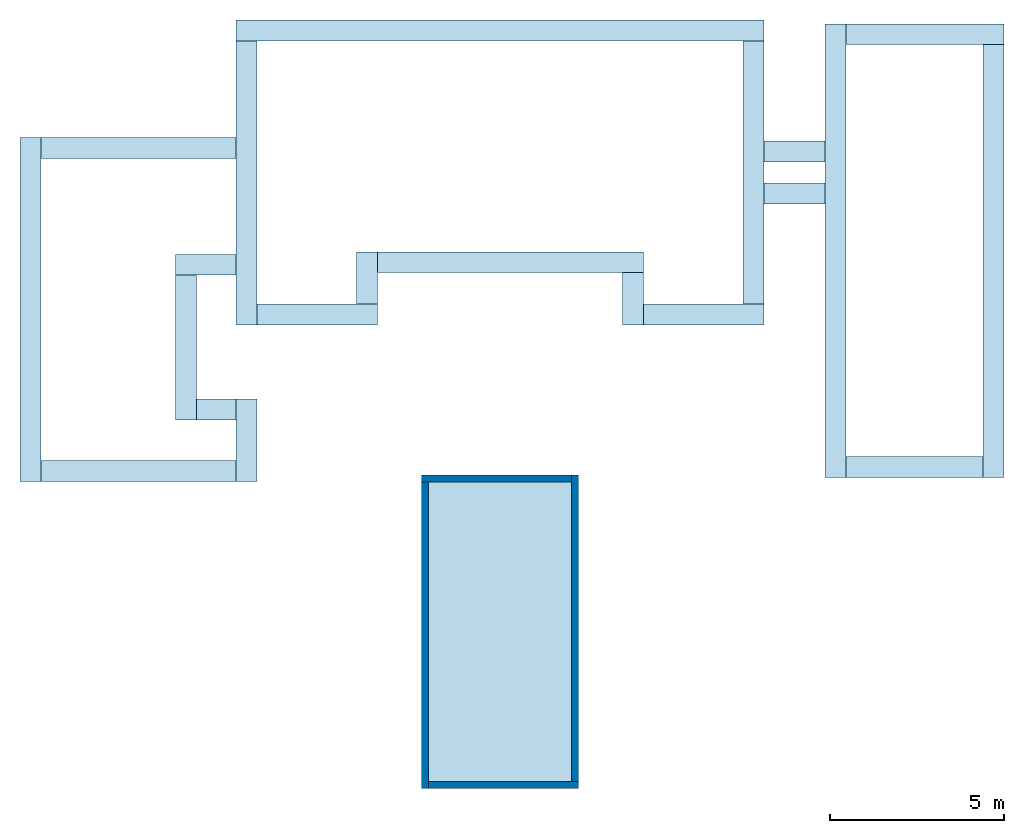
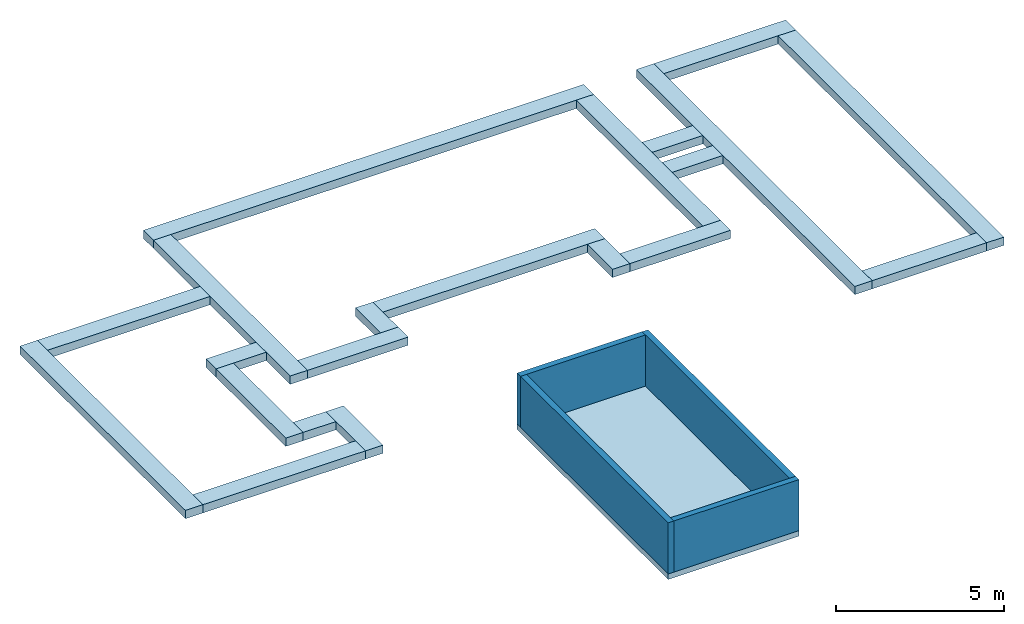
# One storey: 21 footings, 4 walls, 1 slab.
"""IFC2X3 building model written with IfcOpenShell, lengths in metres."""

import ifcopenshell
import ifcopenshell.guid

model = None  # the IFC model being written
_history = None  # IfcOwnerHistory: only IFC2X3 demands one
_inside = {}  # id of a spatial element -> (the spatial element, [elements in it])
_under = {}  # id of a project, library or spatial element -> (it, [spatial elements below it])
_declared = {}  # id of a project -> (the project, [libraries it declares])
_typed = {}  # id of a type object -> (the type object, [elements of that type])
_made_of = {}  # id of a material, layer set ... -> (it, [elements and type objects made of it])


def new_model(schema):
    """Start an empty IFC model of exactly this schema.

    Asked for "IFC4X3", IfcOpenShell would pick the latest addendum, in which some entities
    have other attributes; the version numbers below select the first issue.
    IFC2X3 requires an IfcOwnerHistory on every rooted entity: one is made here for all.
    """
    global model, _history
    if schema == "IFC4X3":
        model = ifcopenshell.file(schema_version=(4, 3, 0, 0))
    else:
        model = ifcopenshell.file(schema=schema)
    _inside.clear()
    _under.clear()
    _declared.clear()
    _typed.clear()
    _made_of.clear()
    _history = None
    if model.schema == "IFC2X3":
        org = make("IfcOrganization", Name="unknown")
        user = make(
            "IfcPersonAndOrganization",
            ThePerson=make("IfcPerson", FamilyName="unknown"),
            TheOrganization=org,
        )
        app = make(
            "IfcApplication",
            ApplicationDeveloper=org,
            Version="unknown",
            ApplicationFullName="unknown",
            ApplicationIdentifier="unknown",
        )
        _history = make(
            "IfcOwnerHistory",
            OwningUser=user,
            OwningApplication=app,
            ChangeAction="ADDED",
            CreationDate=0,
        )
    return model


def make(cls, **values):
    """One entity of the class cls with the attributes given. An attribute that is None is left unset."""
    return model.create_entity(
        cls, **{name: value for name, value in values.items() if value is not None}
    )


def entity(cls, *values):
    """Any entity or typed value of the class cls, its attributes in the order of the schema. None: left unset."""
    e = model.create_entity(cls)
    for i, value in enumerate(values):
        if value is not None:
            e[i] = value
    return e


def rooted(cls, **values):
    """An entity with a GlobalId (a new one), such as an element, a storey or a relation."""
    return make(cls, GlobalId=ifcopenshell.guid.new(), OwnerHistory=_history, **values)


def si_unit(unit_type, name, prefix=None):
    """IfcSIUnit, for example si_unit("LENGTHUNIT", "METRE", prefix="MILLI")."""
    return make("IfcSIUnit", UnitType=unit_type, Prefix=prefix, Name=name)


def converted_unit(unit_type, name, factor, base, dimensions=None, offset=None):
    """IfcConversionBasedUnit, such as the inch: factor (a typed value) times the base unit."""
    return make(
        "IfcConversionBasedUnit"
        if offset is None
        else "IfcConversionBasedUnitWithOffset",
        ConversionOffset=offset,
        Dimensions=None
        if dimensions is None
        else entity("IfcDimensionalExponents", *dimensions),
        UnitType=unit_type,
        Name=name,
        ConversionFactor=make(
            "IfcMeasureWithUnit", ValueComponent=factor, UnitComponent=base
        ),
    )


def derived_unit(unit_type, elements):
    """IfcDerivedUnit: a product of units, each with its exponent."""
    return make(
        "IfcDerivedUnit",
        Elements=[
            make("IfcDerivedUnitElement", Unit=unit, Exponent=power)
            for unit, power in elements
        ],
        UnitType=unit_type,
    )


def assignment(units):
    """IfcUnitAssignment: the units of a project."""
    return None if units is None else make("IfcUnitAssignment", Units=units)


def point(xyz):
    """IfcCartesianPoint."""
    return None if xyz is None else make("IfcCartesianPoint", Coordinates=xyz)


def direction(xyz):
    """IfcDirection."""
    return None if xyz is None else make("IfcDirection", DirectionRatios=xyz)


def frame(location, z_axis=None, x_axis=None):
    """IfcAxis2Placement3D, a coordinate frame: its origin and axes. An axis left out is left unset."""
    return make(
        "IfcAxis2Placement3D",
        Location=point(location),
        Axis=direction(z_axis),
        RefDirection=direction(x_axis),
    )


def frame_2d(location, x_axis=None):
    """IfcAxis2Placement2D, a coordinate frame in the plane: its origin and x axis."""
    return make(
        "IfcAxis2Placement2D", Location=point(location), RefDirection=direction(x_axis)
    )


def origin():
    """The frame at (0, 0, 0) with its axes left unset."""
    return frame((0.0, 0.0, 0.0))


def origin_2d_with_axis():
    """The frame at (0, 0) in the plane with the x axis (1, 0) written out."""
    return frame_2d((0.0, 0.0), x_axis=(1.0, 0.0))


def place(relative_to, where):
    """IfcLocalPlacement: puts the frame where relative to a parent placement (None: the world)."""
    return make(
        "IfcLocalPlacement", PlacementRelTo=relative_to, RelativePlacement=where
    )


def context(
    kind, dimensions, precision=None, world=None, true_north=None, identifier=None
):
    """IfcGeometricRepresentationContext, for example the 3D "Model" context."""
    return make(
        "IfcGeometricRepresentationContext",
        ContextIdentifier=identifier,
        ContextType=kind,
        CoordinateSpaceDimension=dimensions,
        Precision=precision,
        WorldCoordinateSystem=world,
        TrueNorth=true_north,
    )


def subcontext(parent, identifier, kind, view, scale=None):
    """IfcGeometricRepresentationSubContext, for example "Body" below "Model"."""
    return make(
        "IfcGeometricRepresentationSubContext",
        ContextIdentifier=identifier,
        ContextType=kind,
        ParentContext=parent,
        TargetScale=scale,
        TargetView=view,
    )


def project(units=None, contexts=None):
    """IfcProject with its units and contexts."""
    return rooted(
        "IfcProject",
        Name="project",
        RepresentationContexts=contexts,
        UnitsInContext=assignment(units),
    )


def spatial(cls, under=None, at=None, **own):
    """A site, building, storey or space (cls), placed at a placement, below another one or the project."""
    s = rooted(cls, ObjectPlacement=at, **own)
    if under is not None:
        _under.setdefault(under.id(), (under, []))[1].append(s)
    return s


def profile(cls, at=None, kind="AREA", **sizes):
    """A parametric profile (cls). Its sizes go by their IFC names, for example OverallWidth=200.0."""
    return make(cls, ProfileType=kind, Position=at, **sizes)


def rectangle(**sizes):
    """IfcRectangleProfileDef."""
    return profile("IfcRectangleProfileDef", **sizes)


def extrude(swept, where, along, depth):
    """IfcExtrudedAreaSolid: the profile swept, set in the frame where, extruded along a direction by depth."""
    return make(
        "IfcExtrudedAreaSolid",
        SweptArea=swept,
        Position=where,
        ExtrudedDirection=direction(along),
        Depth=depth,
    )


def shape(context_of_items, identifier, shape_type, items):
    """IfcShapeRepresentation: the items that make up one representation, for example the "Body"."""
    return make(
        "IfcShapeRepresentation",
        ContextOfItems=context_of_items,
        RepresentationIdentifier=identifier,
        RepresentationType=shape_type,
        Items=items,
    )


def material(Name=None, Category=None):
    """IfcMaterial."""
    return make("IfcMaterial", Name=Name, Category=Category)


def layer(
    of_material, thickness, ventilated=None, Name=None, Category=None, Priority=None
):
    """IfcMaterialLayer: one layer of a wall or slab, of a material (None: an air gap)."""
    return make(
        "IfcMaterialLayer",
        Material=of_material,
        LayerThickness=thickness,
        IsVentilated=ventilated,
        Name=Name,
        Category=Category,
        Priority=Priority,
    )


def layer_set(layers, Name=None):
    """IfcMaterialLayerSet."""
    return make("IfcMaterialLayerSet", MaterialLayers=layers, LayerSetName=Name)


def layer_usage(for_layer_set, set_direction, sense, offset, extent=None):
    """IfcMaterialLayerSetUsage: how a layer set lies in its element."""
    return make(
        "IfcMaterialLayerSetUsage",
        ForLayerSet=for_layer_set,
        LayerSetDirection=set_direction,
        DirectionSense=sense,
        OffsetFromReferenceLine=offset,
        ReferenceExtent=extent,
    )


def made_of(thing, what):
    """Note that an element or type object is made of a material, layer set ...; save() writes the relation."""
    if what is not None:
        _made_of.setdefault(what.id(), (what, []))[1].append(thing)
    return thing


def type_object(cls, material=None, **own):
    """A type object (cls), such as IfcWallType, which elements share."""
    return made_of(rooted(cls, **own), material)


def element(
    cls,
    number,
    at=None,
    inside=None,
    cuts=None,
    type_object=None,
    material=None,
    context=None,
    identifier="Body",
    shape_type=None,
    held_by="IfcProductDefinitionShape",
    body=None,
    shapes=None,
    **own,
):
    """One element of the class cls, such as IfcWall. Its Tag is "e" and its number.

    at: its placement. inside: the storey or other place that contains it. cuts: it is an
    opening in that element (IfcRelVoidsElement). A single representation is given by context,
    identifier, shape_type and body (its items); several are given by shapes. held_by: the class
    of the entity that holds the representations. save() writes the other relations.
    """
    e = rooted(cls, Tag="e%d" % number, ObjectPlacement=at, **own)
    if body is not None:
        shapes = [shape(context, identifier, shape_type, body)]
    if shapes is not None:
        e.Representation = make(held_by, Representations=shapes)
    if inside is not None:
        _inside.setdefault(inside.id(), (inside, []))[1].append(e)
    if cuts is not None:
        rooted(
            "IfcRelVoidsElement", RelatingBuildingElement=cuts, RelatedOpeningElement=e
        )
    if type_object is not None:
        _typed.setdefault(type_object.id(), (type_object, []))[1].append(e)
    return made_of(e, material)


def aggregate(whole, parts):
    """IfcRelAggregates: a whole, such as a stair, and the parts it consists of."""
    return rooted("IfcRelAggregates", RelatingObject=whole, RelatedObjects=parts)


def save(model, path):
    """Write the relations noted so far, then the file.

    IfcRelAggregates (storeys below a building ...), IfcRelContainedInSpatialStructure (elements
    in a storey), IfcRelDefinesByType, IfcRelAssociatesMaterial and IfcRelDeclares: one each for
    every whole, place, type object, material and project.
    """
    for whole, parts in _under.values():
        aggregate(whole, parts)
    for where, things in _inside.values():
        rooted(
            "IfcRelContainedInSpatialStructure",
            RelatedElements=things,
            RelatingStructure=where,
        )
    for kind, things in _typed.values():
        rooted("IfcRelDefinesByType", RelatedObjects=things, RelatingType=kind)
    for what, things in _made_of.values():
        rooted("IfcRelAssociatesMaterial", RelatedObjects=things, RelatingMaterial=what)
    for by, libraries in _declared.values():
        rooted("IfcRelDeclares", RelatingContext=by, RelatedDefinitions=libraries)
    model.write(path)


model = new_model("IFC2X3")

# Units and contexts
model_context = context("Model", 3, precision=1e-05, world=origin(), true_north=direction((6.12303176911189e-17, 1.0)))
body_context = subcontext(model_context, "Body", "Model", "MODEL_VIEW")
ifc_project = project(units=[si_unit("LENGTHUNIT", "METRE"), si_unit("AREAUNIT", "SQUARE_METRE"), si_unit("VOLUMEUNIT", "CUBIC_METRE"), converted_unit("PLANEANGLEUNIT", "DEGREE", entity("IfcRatioMeasure", 0.0174532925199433), si_unit("PLANEANGLEUNIT", "RADIAN"), dimensions=[0, 0, 0, 0, 0, 0, 0]), si_unit("MASSUNIT", "GRAM", prefix="KILO"), derived_unit("MASSDENSITYUNIT", [(si_unit("MASSUNIT", "GRAM", prefix="KILO"), 1), (si_unit("LENGTHUNIT", "METRE"), -3)]), si_unit("TIMEUNIT", "SECOND"), si_unit("FREQUENCYUNIT", "HERTZ"), si_unit("THERMODYNAMICTEMPERATUREUNIT", "DEGREE_CELSIUS"), derived_unit("THERMALTRANSMITTANCEUNIT", [(si_unit("MASSUNIT", "GRAM", prefix="KILO"), 1), (si_unit("THERMODYNAMICTEMPERATUREUNIT", "KELVIN"), -1), (si_unit("TIMEUNIT", "SECOND"), -3)]), derived_unit("VOLUMETRICFLOWRATEUNIT", [(si_unit("LENGTHUNIT", "METRE"), 3), (si_unit("TIMEUNIT", "SECOND"), -1)]), si_unit("ELECTRICCURRENTUNIT", "AMPERE"), si_unit("ELECTRICVOLTAGEUNIT", "VOLT"), si_unit("POWERUNIT", "WATT"), si_unit("FORCEUNIT", "NEWTON", prefix="KILO"), si_unit("ILLUMINANCEUNIT", "LUX"), si_unit("LUMINOUSFLUXUNIT", "LUMEN"), si_unit("LUMINOUSINTENSITYUNIT", "CANDELA"), derived_unit("USERDEFINED", [(si_unit("MASSUNIT", "GRAM", prefix="KILO"), -1), (si_unit("LENGTHUNIT", "METRE"), -2), (si_unit("TIMEUNIT", "SECOND"), 3), (si_unit("LUMINOUSFLUXUNIT", "LUMEN"), 1)]), derived_unit("LINEARVELOCITYUNIT", [(si_unit("LENGTHUNIT", "METRE"), 1), (si_unit("TIMEUNIT", "SECOND"), -1)]), si_unit("PRESSUREUNIT", "PASCAL"), derived_unit("USERDEFINED", [(si_unit("LENGTHUNIT", "METRE"), -2), (si_unit("MASSUNIT", "GRAM", prefix="KILO"), 1), (si_unit("TIMEUNIT", "SECOND"), -2)])], contexts=[model_context])

# Site, building, storey
site_placement = place(None, origin())
site = spatial("IfcSite", under=ifc_project, at=site_placement, Name="Surface", CompositionType="ELEMENT")
building_placement = place(site_placement, origin())
building = spatial("IfcBuilding", under=site, at=building_placement, CompositionType="ELEMENT")
storey_placement = place(building_placement, frame((0.0, 0.0, -2.2)))
storey = spatial("IfcBuildingStorey", under=building, at=storey_placement, Name="PIscine", CompositionType="ELEMENT", Elevation=-2.2)

# Footings
ifc_material_1 = material(Name="Maçonnerie - Béton")
footing_1_placement = place(storey_placement, origin())
element("IfcFooting", 1, at=footing_1_placement, inside=storey, material=ifc_material_1, Name="Semelle filante:Soubassement 20 cm/20 cm x 30 cm", ObjectType="Semelle filante:Soubassement 20 cm/20 cm x 30 cm", PredefinedType="STRIP_FOOTING", context=body_context, shape_type="SweptSolid", body=[
    extrude(rectangle(XDim=15.16, YDim=0.6, at=frame_2d((-3.10862446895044e-15, 0.100000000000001), x_axis=(1.0, 0.0))), frame((2.3975111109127, 7.65313204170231, 0.899999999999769)), (0.0, 0.0, 1.0), 0.3),
])
footing_2_placement = place(storey_placement, origin())
element("IfcFooting", 2, at=footing_2_placement, inside=storey, material=ifc_material_1, Name="Semelle filante:Soubassement 20 cm/20 cm x 30 cm", ObjectType="Semelle filante:Soubassement 20 cm/20 cm x 30 cm", PredefinedType="STRIP_FOOTING", context=body_context, shape_type="SweptSolid", body=[
    extrude(rectangle(XDim=8.15612136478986, YDim=0.600000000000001, at=frame_2d((0.685589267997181, -0.100000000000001), x_axis=(1.0, 0.0))), frame((-4.9824888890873, 2.68948209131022, 0.899999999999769), z_axis=(0.0, 0.0, 1.0), x_axis=(0.0, 1.0, 0.0)), (0.0, 0.0, 1.0), 0.3),
])
footing_3_placement = place(storey_placement, origin())
element("IfcFooting", 3, at=footing_3_placement, inside=storey, material=ifc_material_1, Name="Semelle filante:Soubassement 20 cm/20 cm x 30 cm", ObjectType="Semelle filante:Soubassement 20 cm/20 cm x 30 cm", PredefinedType="STRIP_FOOTING", context=body_context, shape_type="SweptSolid", body=[
    extrude(rectangle(XDim=3.46000000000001, YDim=0.6, at=frame_2d((0.226000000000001, 0.0600000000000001), x_axis=(1.0, 0.0))), frame((-2.6264888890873, -0.342989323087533, 0.899999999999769), z_axis=(0.0, 0.0, 1.0), x_axis=(-1.0, 0.0, 0.0)), (0.0, 0.0, 1.0), 0.3),
])
footing_4_placement = place(storey_placement, origin())
element("IfcFooting", 4, at=footing_4_placement, inside=storey, material=ifc_material_1, Name="Semelle filante:Soubassement 20 cm/20 cm x 30 cm", ObjectType="Semelle filante:Soubassement 20 cm/20 cm x 30 cm", PredefinedType="STRIP_FOOTING", context=body_context, shape_type="SweptSolid", body=[
    extrude(rectangle(XDim=1.50000000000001, YDim=0.6, at=frame_2d((0.0300000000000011, -0.06), x_axis=(1.0, 0.0))), frame((-1.3624888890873, 0.677010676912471, 0.899999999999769), z_axis=(0.0, 0.0, 1.0), x_axis=(0.0, -1.0, 0.0)), (0.0, 0.0, 1.0), 0.3),
])
footing_5_placement = place(storey_placement, origin())
element("IfcFooting", 5, at=footing_5_placement, inside=storey, material=ifc_material_1, Name="Semelle filante:Soubassement 20 cm/20 cm x 30 cm", ObjectType="Semelle filante:Soubassement 20 cm/20 cm x 30 cm", PredefinedType="STRIP_FOOTING", context=body_context, shape_type="SweptSolid", body=[
    extrude(rectangle(XDim=7.64, YDim=0.6, at=frame_2d((0.644000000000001, -0.0600000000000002), x_axis=(1.0, 0.0))), frame((3.3415111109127, 1.03701067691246, 0.899999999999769), z_axis=(0.0, 0.0, 1.0), x_axis=(-1.0, 0.0, 0.0)), (0.0, 0.0, 1.0), 0.3),
])
footing_6_placement = place(storey_placement, origin())
element("IfcFooting", 6, at=footing_6_placement, inside=storey, material=ifc_material_1, Name="Semelle filante:Soubassement 20 cm/20 cm x 30 cm", ObjectType="Semelle filante:Soubassement 20 cm/20 cm x 30 cm", PredefinedType="STRIP_FOOTING", context=body_context, shape_type="SweptSolid", body=[
    extrude(rectangle(XDim=1.49999999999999, YDim=0.6, at=frame_2d((0.0299999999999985, 0.0600000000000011), x_axis=(1.0, 0.0))), frame((6.2775111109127, 0.01701067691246, 0.899999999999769), z_axis=(0.0, 0.0, 1.0), x_axis=(0.0, 1.0, 0.0)), (0.0, 0.0, 1.0), 0.3),
])
footing_7_placement = place(storey_placement, origin())
element("IfcFooting", 7, at=footing_7_placement, inside=storey, material=ifc_material_1, Name="Semelle filante:Soubassement 20 cm/20 cm x 30 cm", ObjectType="Semelle filante:Soubassement 20 cm/20 cm x 30 cm", PredefinedType="STRIP_FOOTING", context=body_context, shape_type="SweptSolid", body=[
    extrude(rectangle(XDim=3.46000000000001, YDim=0.6, at=frame_2d((0.226, 0.0600000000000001), x_axis=(1.0, 0.0))), frame((8.4735111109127, -0.342989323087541, 0.899999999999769), z_axis=(0.0, 0.0, 1.0), x_axis=(-1.0, 0.0, 0.0)), (0.0, 0.0, 1.0), 0.3),
])
footing_8_placement = place(storey_placement, origin())
element("IfcFooting", 8, at=footing_8_placement, inside=storey, material=ifc_material_1, Name="Semelle filante:Soubassement 20 cm/20 cm x 30 cm", ObjectType="Semelle filante:Soubassement 20 cm/20 cm x 30 cm", PredefinedType="STRIP_FOOTING", context=body_context, shape_type="SweptSolid", body=[
    extrude(rectangle(XDim=7.55612136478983, YDim=0.6, at=frame_2d((0.000969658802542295, -0.149999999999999), x_axis=(1.0, 0.0))), frame((9.8275111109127, 3.67604101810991, 0.899999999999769), z_axis=(0.0, 0.0, 1.0), x_axis=(0.0, -1.0, 0.0)), (0.0, 0.0, 1.0), 0.3),
])
footing_9_placement = place(storey_placement, origin())
element("IfcFooting", 9, at=footing_9_placement, inside=storey, material=ifc_material_1, Name="Semelle filante:Soubassement 20 cm/20 cm x 30 cm", ObjectType="Semelle filante:Soubassement 20 cm/20 cm x 30 cm", PredefinedType="STRIP_FOOTING", context=body_context, shape_type="SweptSolid", body=[
    extrude(rectangle(XDim=1.75092641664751, YDim=0.6, at=frame_2d((-2.16493489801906e-15, 2.77555756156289e-16), x_axis=(1.0, 0.0))), frame((10.8529743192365, 3.07701067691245, 0.899999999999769), z_axis=(0.0, 0.0, 1.0), x_axis=(-1.0, 0.0, 0.0)), (0.0, 0.0, 1.0), 0.3),
])
footing_10_placement = place(storey_placement, origin())
element("IfcFooting", 10, at=footing_10_placement, inside=storey, material=ifc_material_1, Name="Semelle filante:Soubassement 20 cm/20 cm x 30 cm", ObjectType="Semelle filante:Soubassement 20 cm/20 cm x 30 cm", PredefinedType="STRIP_FOOTING", context=body_context, shape_type="SweptSolid", body=[
    extrude(rectangle(XDim=1.75092641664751, YDim=0.6, at=frame_2d((0.0, 2.77555756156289e-16), x_axis=(1.0, 0.0))), frame((10.8529743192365, 4.27701067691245, 0.899999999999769), z_axis=(0.0, 0.0, 1.0), x_axis=(-1.0, 0.0, 0.0)), (0.0, 0.0, 1.0), 0.3),
])
footing_11_placement = place(storey_placement, origin())
element("IfcFooting", 11, at=footing_11_placement, inside=storey, material=ifc_material_1, Name="Semelle filante:Soubassement 20 cm/20 cm x 30 cm", ObjectType="Semelle filante:Soubassement 20 cm/20 cm x 30 cm", PredefinedType="STRIP_FOOTING", context=body_context, shape_type="SweptSolid", body=[
    extrude(rectangle(XDim=13.03, YDim=0.6, at=frame_2d((0.899050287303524, 0.0599999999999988), x_axis=(1.0, 0.0))), frame((11.9684375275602, 2.32843524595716, 0.899999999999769), z_axis=(0.0, 0.0, 1.0), x_axis=(0.0, -1.0, 0.0)), (0.0, 0.0, 1.0), 0.3),
])
footing_12_placement = place(storey_placement, origin())
element("IfcFooting", 12, at=footing_12_placement, inside=storey, material=ifc_material_1, Name="Semelle filante:Soubassement 20 cm/20 cm x 30 cm", ObjectType="Semelle filante:Soubassement 20 cm/20 cm x 30 cm", PredefinedType="STRIP_FOOTING", context=body_context, shape_type="SweptSolid", body=[
    extrude(rectangle(XDim=4.5390735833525, YDim=0.6, at=frame_2d((0.33390735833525, -0.0599999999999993), x_axis=(1.0, 0.0))), frame((14.9318816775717, 7.58438495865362, 0.899999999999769), z_axis=(0.0, 0.0, 1.0), x_axis=(-1.0, 0.0, 0.0)), (0.0, 0.0, 1.0), 0.3),
])
footing_13_placement = place(storey_placement, origin())
element("IfcFooting", 13, at=footing_13_placement, inside=storey, material=ifc_material_1, Name="Semelle filante:Soubassement 20 cm/20 cm x 30 cm", ObjectType="Semelle filante:Soubassement 20 cm/20 cm x 30 cm", PredefinedType="STRIP_FOOTING", context=body_context, shape_type="SweptSolid", body=[
    extrude(rectangle(XDim=12.43, YDim=0.6, at=frame_2d((1.123, -0.0599999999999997), x_axis=(1.0, 0.0))), frame((16.5075111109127, 0.00638495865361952, 0.899999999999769), z_axis=(0.0, 0.0, 1.0), x_axis=(0.0, 1.0, 0.0)), (0.0, 0.0, 1.0), 0.3),
])
footing_14_placement = place(storey_placement, origin())
element("IfcFooting", 14, at=footing_14_placement, inside=storey, material=ifc_material_1, Name="Semelle filante:Soubassement 20 cm/20 cm x 30 cm", ObjectType="Semelle filante:Soubassement 20 cm/20 cm x 30 cm", PredefinedType="STRIP_FOOTING", context=body_context, shape_type="SweptSolid", body=[
    extrude(rectangle(XDim=3.9390735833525, YDim=0.6, at=origin_2d_with_axis()), frame((14.2979743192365, -4.78561504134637, 0.899999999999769)), (0.0, 0.0, 1.0), 0.3),
])
footing_15_placement = place(storey_placement, origin())
element("IfcFooting", 15, at=footing_15_placement, inside=storey, material=ifc_material_1, Name="Semelle filante:Soubassement 20 cm/20 cm x 30 cm", ObjectType="Semelle filante:Soubassement 20 cm/20 cm x 30 cm", PredefinedType="STRIP_FOOTING", context=body_context, shape_type="SweptSolid", body=[
    extrude(rectangle(XDim=1.73, YDim=0.6, at=frame_2d((0.0530000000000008, 0.06), x_axis=(1.0, 0.0))), frame((-6.10048888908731, 0.967010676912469, 0.89999999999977)), (0.0, 0.0, 1.0), 0.3),
])
footing_16_placement = place(storey_placement, origin())
element("IfcFooting", 16, at=footing_16_placement, inside=storey, material=ifc_material_1, Name="Semelle filante:Soubassement 20 cm/20 cm x 30 cm", ObjectType="Semelle filante:Soubassement 20 cm/20 cm x 30 cm", PredefinedType="STRIP_FOOTING", context=body_context, shape_type="SweptSolid", body=[
    extrude(rectangle(XDim=9.87, YDim=0.6, at=frame_2d((1.77635683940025e-15, 0.100000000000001), x_axis=(1.0, 0.0))), frame((-10.9824888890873, -0.257989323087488, 0.899999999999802), z_axis=(0.0, 0.0, 1.0), x_axis=(0.0, 1.0, 0.0)), (0.0, 0.0, 1.0), 0.3),
])
footing_17_placement = place(storey_placement, origin())
element("IfcFooting", 17, at=footing_17_placement, inside=storey, material=ifc_material_1, Name="Semelle filante:Soubassement 20 cm/20 cm x 30 cm", ObjectType="Semelle filante:Soubassement 20 cm/20 cm x 30 cm", PredefinedType="STRIP_FOOTING", context=body_context, shape_type="SweptSolid", body=[
    extrude(rectangle(XDim=2.36000000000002, YDim=0.6, at=frame_2d((2.22044604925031e-16, 0.1), x_axis=(1.0, 0.0))), frame((-4.98248888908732, -4.0129893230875, 0.899999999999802), z_axis=(0.0, 0.0, 1.0), x_axis=(0.0, -1.0, 0.0)), (0.0, 0.0, 1.0), 0.3),
])
footing_18_placement = place(storey_placement, origin())
element("IfcFooting", 18, at=footing_18_placement, inside=storey, material=ifc_material_1, Name="Semelle filante:Soubassement 20 cm/20 cm x 30 cm", ObjectType="Semelle filante:Soubassement 20 cm/20 cm x 30 cm", PredefinedType="STRIP_FOOTING", context=body_context, shape_type="SweptSolid", body=[
    extrude(rectangle(XDim=5.59999999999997, YDim=0.6, at=frame_2d((6.66133814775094e-16, 0.0), x_axis=(1.0, 0.0))), frame((-7.98248888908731, -4.8929893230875, 0.899999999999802)), (0.0, 0.0, 1.0), 0.3),
])
footing_19_placement = place(storey_placement, origin())
element("IfcFooting", 19, at=footing_19_placement, inside=storey, material=ifc_material_1, Name="Semelle filante:Soubassement 20 cm/20 cm x 30 cm", ObjectType="Semelle filante:Soubassement 20 cm/20 cm x 30 cm", PredefinedType="STRIP_FOOTING", context=body_context, shape_type="SweptSolid", body=[
    extrude(rectangle(XDim=5.59999999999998, YDim=0.600000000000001, at=frame_2d((6.66133814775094e-16, -2.77555756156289e-16), x_axis=(1.0, 0.0))), frame((-7.98248888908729, 4.3770106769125, 0.899999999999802), z_axis=(0.0, 0.0, 1.0), x_axis=(-1.0, 0.0, 0.0)), (0.0, 0.0, 1.0), 0.3),
])
footing_20_placement = place(storey_placement, origin())
element("IfcFooting", 20, at=footing_20_placement, inside=storey, material=ifc_material_1, Name="Semelle filante:Soubassement 20 cm/20 cm x 30 cm", ObjectType="Semelle filante:Soubassement 20 cm/20 cm x 30 cm", PredefinedType="STRIP_FOOTING", context=body_context, shape_type="SweptSolid", body=[
    extrude(rectangle(XDim=4.15999999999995, YDim=0.6, at=frame_2d((0.295999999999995, 0.0599999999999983), x_axis=(1.0, 0.0))), frame((-6.55248888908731, -1.6489893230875, 0.899999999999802), z_axis=(0.0, 0.0, 1.0), x_axis=(0.0, 1.0, 0.0)), (0.0, 0.0, 1.0), 0.3),
])
footing_21_placement = place(storey_placement, origin())
element("IfcFooting", 21, at=footing_21_placement, inside=storey, material=ifc_material_1, Name="Semelle filante:Soubassement 20 cm/20 cm x 30 cm", ObjectType="Semelle filante:Soubassement 20 cm/20 cm x 30 cm", PredefinedType="STRIP_FOOTING", context=body_context, shape_type="SweptSolid", body=[
    extrude(rectangle(XDim=1.12999999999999, YDim=0.6, at=frame_2d((-5.55111512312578e-16, -2.77555756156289e-16), x_axis=(1.0, 0.0))), frame((-5.74748888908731, -3.13298932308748, 0.899999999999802), z_axis=(0.0, 0.0, 1.0), x_axis=(-1.0, 0.0, 0.0)), (0.0, 0.0, 1.0), 0.3),
])

# Slab
ifc_material_2 = material(Name="Béton, coulé sur place")
ifc_layer_1 = layer(ifc_material_2, 0.2)
ifc_layer_set_1 = layer_set([ifc_layer_1], Name="Sol:Dalle en béton - 200 mm")
ifc_layer_usage_1 = layer_usage(ifc_layer_set_1, "AXIS3", "POSITIVE", 0.0)
slab_placement = place(storey_placement, origin())
element("IfcSlab", 22, at=slab_placement, inside=storey, material=ifc_layer_usage_1, Name="Sol:Dalle en béton - 200 mm", ObjectType="Sol:Dalle en béton - 200 mm", PredefinedType="FLOOR", context=body_context, shape_type="SweptSolid", body=[
    extrude(rectangle(XDim=9.0, YDim=4.5, at=origin_2d_with_axis()), frame((2.39681118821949, -9.51298932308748, 0.2), z_axis=(0.0, 0.0, -1.0), x_axis=(0.0, 1.0, 0.0)), (0.0, 0.0, 1.0), 0.2),
])

# Walls
ifc_material_3 = material(Name="Béton - Béton coulé sur place")
ifc_layer_2 = layer(ifc_material_3, 0.2)
ifc_layer_set_2 = layer_set([ifc_layer_2], Name="Mur de base:Ext. Voile BA 20 piscine")
ifc_layer_usage_2 = layer_usage(ifc_layer_set_2, "AXIS2", "NEGATIVE", 0.1)
wall_type = type_object("IfcWallType", Name="Mur de base:Ext. Voile BA 20 piscine", PredefinedType="STANDARD", material=ifc_layer_set_2)
wall_1_placement = place(storey_placement, frame((0.14681118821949, -5.11298932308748, 0.2)))
element("IfcWallStandardCase", 23, at=wall_1_placement, inside=storey, type_object=wall_type, material=ifc_layer_usage_2, Name="Mur de base:Ext. Voile BA 20 piscine", ObjectType="Mur de base:Ext. Voile BA 20 piscine", context=body_context, shape_type="SweptSolid", body=[
    extrude(rectangle(XDim=4.3, YDim=0.2, at=frame_2d((2.15, 0.0), x_axis=(-1.0, 0.0))), origin(), (0.0, 0.0, 1.0), 1.85999999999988),
])
ifc_layer_usage_3 = layer_usage(ifc_layer_set_2, "AXIS2", "NEGATIVE", 0.1)
wall_2_placement = place(storey_placement, frame((0.24681118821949, -14.0129893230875, 0.2), z_axis=(0.0, 0.0, 1.0), x_axis=(0.0, 1.0, 0.0)))
element("IfcWallStandardCase", 24, at=wall_2_placement, inside=storey, type_object=wall_type, material=ifc_layer_usage_3, Name="Mur de base:Ext. Voile BA 20 piscine", ObjectType="Mur de base:Ext. Voile BA 20 piscine", context=body_context, shape_type="SweptSolid", body=[
    extrude(rectangle(XDim=8.8, YDim=0.2, at=frame_2d((4.4, 0.0), x_axis=(-1.0, 0.0))), origin(), (0.0, 0.0, 1.0), 1.85999999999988),
])
ifc_layer_usage_4 = layer_usage(ifc_layer_set_2, "AXIS2", "NEGATIVE", 0.1)
wall_3_placement = place(storey_placement, frame((4.64681118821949, -13.9129893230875, 0.2), z_axis=(0.0, 0.0, 1.0), x_axis=(-1.0, 0.0, 0.0)))
element("IfcWallStandardCase", 25, at=wall_3_placement, inside=storey, type_object=wall_type, material=ifc_layer_usage_4, Name="Mur de base:Ext. Voile BA 20 piscine", ObjectType="Mur de base:Ext. Voile BA 20 piscine", context=body_context, shape_type="SweptSolid", body=[
    extrude(rectangle(XDim=4.3, YDim=0.199999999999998, at=frame_2d((2.15, 0.0), x_axis=(-1.0, 0.0))), origin(), (0.0, 0.0, 1.0), 1.85999999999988),
])
ifc_layer_usage_5 = layer_usage(ifc_layer_set_2, "AXIS2", "NEGATIVE", 0.1)
wall_4_placement = place(storey_placement, frame((4.54681118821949, -5.01298932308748, 0.2), z_axis=(0.0, 0.0, 1.0), x_axis=(0.0, -1.0, 0.0)))
element("IfcWallStandardCase", 26, at=wall_4_placement, inside=storey, type_object=wall_type, material=ifc_layer_usage_5, Name="Mur de base:Ext. Voile BA 20 piscine", ObjectType="Mur de base:Ext. Voile BA 20 piscine", context=body_context, shape_type="SweptSolid", body=[
    extrude(rectangle(XDim=8.8, YDim=0.2, at=frame_2d((4.4, 0.0), x_axis=(-1.0, 0.0))), origin(), (0.0, 0.0, 1.0), 1.85999999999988),
])

save(model, "model.ifc")
